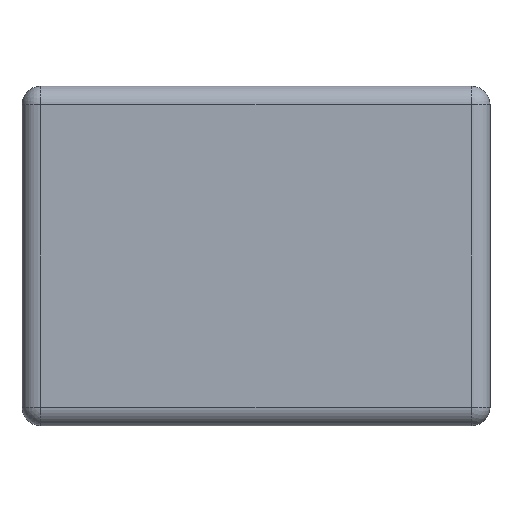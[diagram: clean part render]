
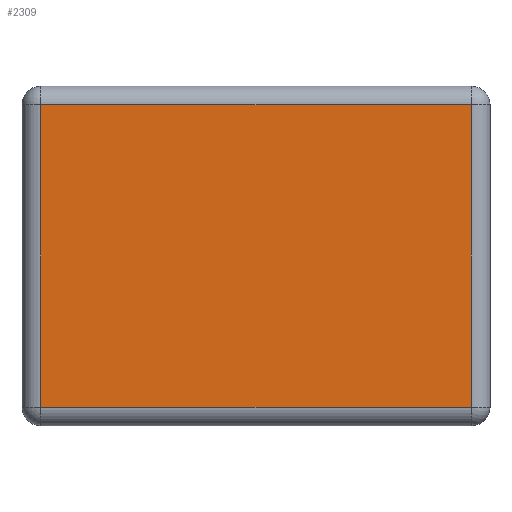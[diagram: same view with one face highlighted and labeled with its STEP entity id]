
A CAD part, front view. The second image highlights one B-rep face of the part: STEP entity #2309.
In plain terms, the highlighted planar face has unit normal (0, -1, 0).
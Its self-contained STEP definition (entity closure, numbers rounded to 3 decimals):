
#60=PLANE('',#2622);
#181=LINE('',#4877,#302);
#184=LINE('',#4892,#305);
#185=LINE('',#4896,#306);
#186=LINE('',#4897,#307);
#302=VECTOR('',#3317,10.);
#305=VECTOR('',#3340,10.);
#306=VECTOR('',#3345,10.);
#307=VECTOR('',#3346,10.);
#557=FACE_OUTER_BOUND('',#712,.T.);
#712=EDGE_LOOP('',(#2082,#2083,#2084,#2085));
#1108=VERTEX_POINT('',#4872);
#1109=VERTEX_POINT('',#4875);
#1111=VERTEX_POINT('',#4891);
#1112=VERTEX_POINT('',#4895);
#1438=EDGE_CURVE('',#1109,#1108,#181,.T.);
#1445=EDGE_CURVE('',#1108,#1111,#184,.T.);
#1447=EDGE_CURVE('',#1112,#1109,#185,.T.);
#1448=EDGE_CURVE('',#1111,#1112,#186,.T.);
#2082=ORIENTED_EDGE('',*,*,#1438,.F.);
#2083=ORIENTED_EDGE('',*,*,#1447,.F.);
#2084=ORIENTED_EDGE('',*,*,#1448,.F.);
#2085=ORIENTED_EDGE('',*,*,#1445,.F.);
#2309=ADVANCED_FACE('',(#557),#60,.T.);
#2622=AXIS2_PLACEMENT_3D('',#4894,#3343,#3344);
#3317=DIRECTION('',(-1.,0.,0.));
#3340=DIRECTION('',(0.,0.,1.));
#3343=DIRECTION('center_axis',(0.,-1.,0.));
#3344=DIRECTION('ref_axis',(-1.,0.,0.));
#3345=DIRECTION('',(0.,0.,-1.));
#3346=DIRECTION('',(1.,0.,0.));
#4872=CARTESIAN_POINT('',(-290.9,-177.8,-28.5));
#4875=CARTESIAN_POINT('',(-142.,-177.8,-28.5));
#4877=CARTESIAN_POINT('',(-216.45,-177.8,-28.5));
#4891=CARTESIAN_POINT('',(-290.9,-177.8,76.));
#4892=CARTESIAN_POINT('',(-290.9,-177.8,82.5));
#4894=CARTESIAN_POINT('Origin',(-135.5,-177.8,82.5));
#4895=CARTESIAN_POINT('',(-142.,-177.8,76.));
#4896=CARTESIAN_POINT('',(-142.,-177.8,23.75));
#4897=CARTESIAN_POINT('',(-135.5,-177.8,76.));
